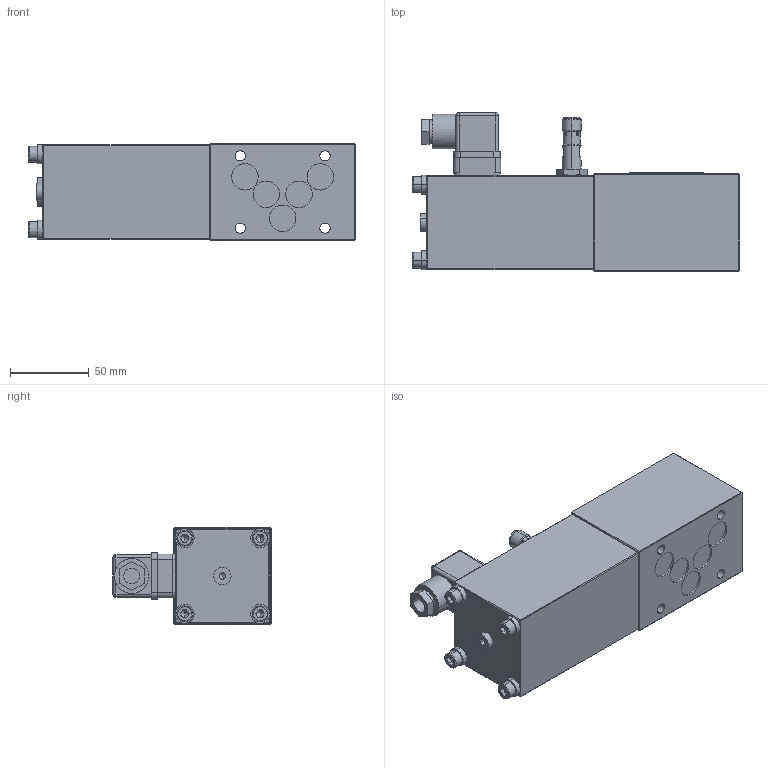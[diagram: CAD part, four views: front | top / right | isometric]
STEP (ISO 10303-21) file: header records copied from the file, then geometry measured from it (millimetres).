
FILE_DESCRIPTION (( 'STEP AP214' ), '1' );
FILE_NAME ('A.22101a-P1a.STEP', '2022-09-23T11:19:06', ( '' ), ( '' ), 'SwSTEP 2.0', 'SolidWorks 2020', '' );
FILE_SCHEMA (( 'AUTOMOTIVE_DESIGN' ));
Length unit declared in the file: millimetre
Products named in the file (1): A.22101a-P1a
Bounding box: 208.4 x 100.8 x 62 mm (x, y, z)
Volume: 772301.7 mm3; surface area: 71335.6 mm2
Topology: 1 solids, 1 shells, 388 faces, 903 edges, 548 vertices
Faces by surface type: plane 228, cylinder 98, cone 30, bspline 24, torus 8
Entity records: 15703 total; most frequent: CARTESIAN_POINT 2812, DIRECTION 1854, ORIENTED_EDGE 1778, EDGE_CURVE 889, AXIS2_PLACEMENT_3D 658, VERTEX_POINT 548, LINE 538, VECTOR 538
